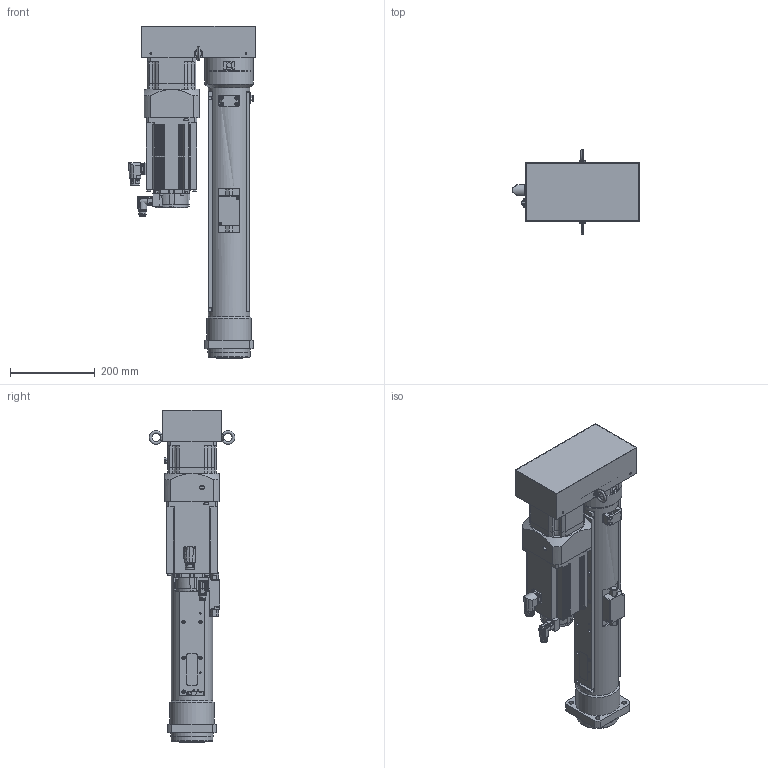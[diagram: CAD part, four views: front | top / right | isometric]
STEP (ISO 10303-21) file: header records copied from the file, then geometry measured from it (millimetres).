
FILE_DESCRIPTION( ('This file contains a STEP AP42 implementation' ,'as created by ZW3D STEP Interface translator.') ,'2;1' );
FILE_NAME( 'OACIS-DC-P025-P030-450-200-A6V400_ASM_20.01.stp' ,'25 310.17 8 7', (''), ('ZWCAD Software Co.'), 'Version 1.0', 'ZW3D to STEP translator', '' );
FILE_SCHEMA(('AUTOMOTIVE_DESIGN { 1 0 10303 214 1 1 1 1 }'));
Length unit declared in the file: millimetre
Products named in the file (2): 0; OACIS-DC-P025-P030-450-200-A6V400_ASM_20.01
Bounding box: 299.5 x 202.6 x 785 mm (x, y, z)
Volume: 9080938.8 mm3; surface area: 1445444.4 mm2
Topology: 20 solids, 28 shells, 2262 faces, 5751 edges, 3708 vertices
Faces by surface type: plane 958, cylinder 906, cone 186, bspline 133, torus 59, sphere 20
Full cylindrical faces by diameter (mm): 1.25 x12, 1.6 x8, 2.232 x6, 2.459 x1, 2.8 x1, 3.3 x104, 4.2 x4, 4.3 x36, 4.5 x4, 5 x16, 5.5 x9, 6 x4, 6.8 x42, 7 x4, 8 x44, 8.4 x8, 8.5 x25, 9 x4, 9.5 x4, 10 x8, 11 x4, 12 x1, 13.4 x1, 15 x8, 15.5 x2, 15.54 x1, 16 x1, 16.2 x1, 16.5 x1, 18 x2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
Entity records: 75423 total; most frequent: CARTESIAN_POINT 18312, DIRECTION 11407, ORIENTED_EDGE 11253, EDGE_CURVE 5676, AXIS2_PLACEMENT_3D 4248, VERTEX_POINT 3719, VECTOR 2911, LINE 2911
